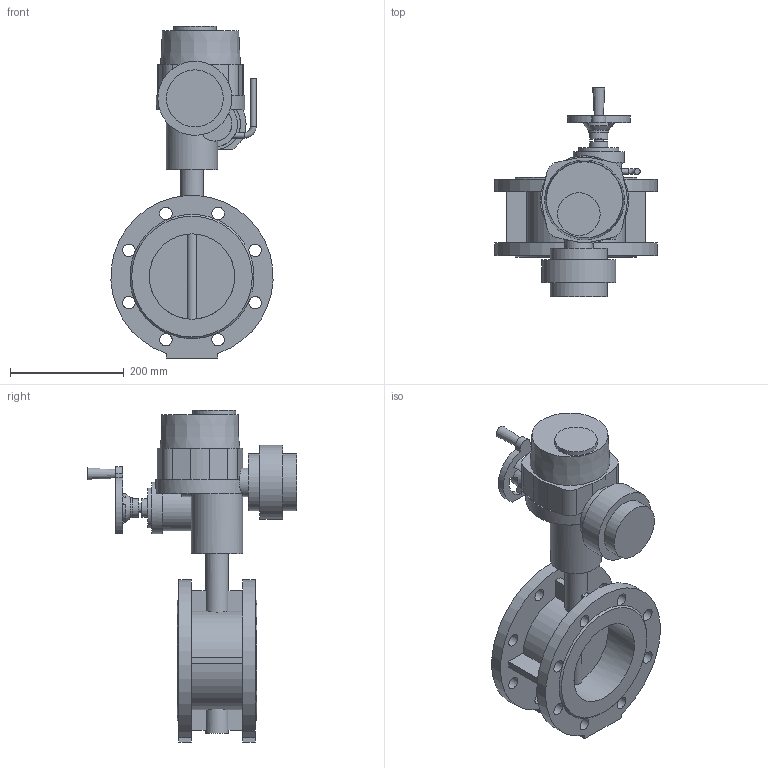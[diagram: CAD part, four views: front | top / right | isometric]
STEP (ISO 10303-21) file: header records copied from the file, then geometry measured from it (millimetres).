
FILE_DESCRIPTION(('STEP AP203'), '1');
FILE_NAME('青蜮铕 021F.Y DN150+菹 QT.A010', '', ('UNSPECIFIED'), ('UNSPECIFIED'), 'ASCON STEP Converter 1.6', 'ASCON Math Kernel', '');
FILE_SCHEMA(('CONFIG_CONTROL_DESIGN'));
Length unit declared in the file: millimetre
Bounding box: 284.6 x 368 x 583 mm (x, y, z)
Volume: 7708830.3 mm3; surface area: 652655.9 mm2
Topology: 1 solids, 1 shells, 173 faces, 458 edges, 296 vertices
Faces by surface type: plane 95, cylinder 72, cone 5, torus 1
Full cylindrical faces by diameter (mm): 6.7 x4, 10 x6, 16 x1, 22 x16, 32 x2, 35 x1, 40 x2, 50 x1, 70 x1, 75 x1, 90 x2, 100 x2, 130 x1, 150 x2
Entity records: 7966 total; most frequent: CARTESIAN_POINT 2317, DIRECTION 905, ORIENTED_EDGE 788, EDGE_CURVE 394, AXIS2_PLACEMENT_3D 361, VERTEX_POINT 288, EDGE_LOOP 284, FACE_BOUND 206
